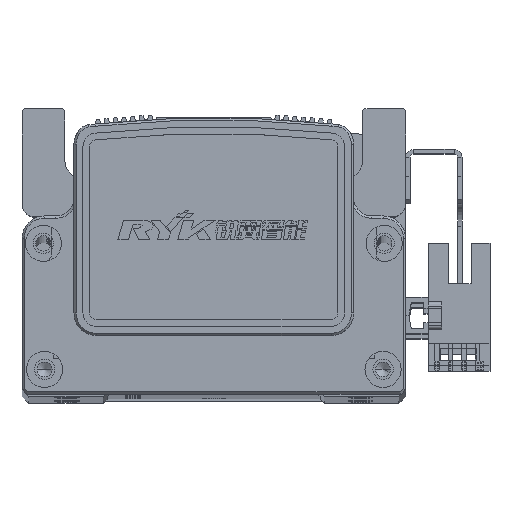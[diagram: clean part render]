
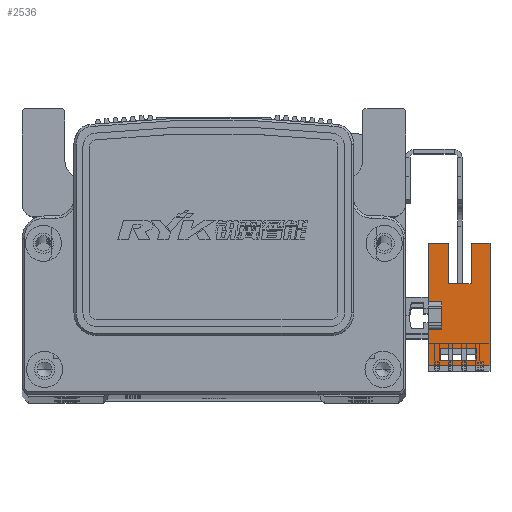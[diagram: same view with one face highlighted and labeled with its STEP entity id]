
A CAD part, top view. The second image highlights one B-rep face of the part: STEP entity #2536.
In plain terms, the highlighted planar face has unit normal (0, 0, 1) as drawn and (1, 0, 0) by its records, which use the part's own axes.
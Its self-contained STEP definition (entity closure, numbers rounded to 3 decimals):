
#1591 = VERTEX_POINT ( 'NONE', #40532 ) ;
#1601 = VERTEX_POINT ( 'NONE', #40647 ) ;
#1612 = VERTEX_POINT ( 'NONE', #40635 ) ;
#1615 = VERTEX_POINT ( 'NONE', #40606 ) ;
#1617 = VERTEX_POINT ( 'NONE', #40631 ) ;
#1626 = VERTEX_POINT ( 'NONE', #40671 ) ;
#1628 = VERTEX_POINT ( 'NONE', #40601 ) ;
#1649 = VERTEX_POINT ( 'NONE', #40608 ) ;
#2536 = ADVANCED_FACE ( 'NONE', ( #17563, #17527 ), #4373, .T. ) ;
#4373 = PLANE ( 'NONE',  #15589 ) ;
#4396 = CARTESIAN_POINT ( 'NONE',  ( 3.2, 16.1, -10.7 ) ) ;
#4399 = DIRECTION ( 'NONE',  ( 1., 0., 0. ) ) ;
#4404 = DIRECTION ( 'NONE',  ( 0., 1., 0. ) ) ;
#12273 = EDGE_LOOP ( 'NONE', ( #21564, #21559, #21554, #21567, #21569, #21543, #21582, #21572, #21539, #21566, #21581, #21553 ) ) ;
#12311 = EDGE_LOOP ( 'NONE', ( #21540, #21579, #21541, #20438 ) ) ;
#15589 = AXIS2_PLACEMENT_3D ( 'NONE', #4396, #4399, #4404 ) ;
#17527 = FACE_BOUND ( 'NONE', #12311, .T. ) ;
#17563 = FACE_OUTER_BOUND ( 'NONE', #12273, .T. ) ;
#20438 = ORIENTED_EDGE ( 'NONE', *, *, #41676, .F. ) ;
#21539 = ORIENTED_EDGE ( 'NONE', *, *, #41618, .F. ) ;
#21540 = ORIENTED_EDGE ( 'NONE', *, *, #41741, .F. ) ;
#21541 = ORIENTED_EDGE ( 'NONE', *, *, #41724, .F. ) ;
#21543 = ORIENTED_EDGE ( 'NONE', *, *, #41775, .F. ) ;
#21553 = ORIENTED_EDGE ( 'NONE', *, *, #41400, .T. ) ;
#21554 = ORIENTED_EDGE ( 'NONE', *, *, #41773, .T. ) ;
#21559 = ORIENTED_EDGE ( 'NONE', *, *, #41731, .T. ) ;
#21564 = ORIENTED_EDGE ( 'NONE', *, *, #41720, .T. ) ;
#21566 = ORIENTED_EDGE ( 'NONE', *, *, #41856, .F. ) ;
#21567 = ORIENTED_EDGE ( 'NONE', *, *, #41762, .T. ) ;
#21569 = ORIENTED_EDGE ( 'NONE', *, *, #41592, .F. ) ;
#21572 = ORIENTED_EDGE ( 'NONE', *, *, #41704, .F. ) ;
#21579 = ORIENTED_EDGE ( 'NONE', *, *, #41871, .F. ) ;
#21581 = ORIENTED_EDGE ( 'NONE', *, *, #41767, .T. ) ;
#21582 = ORIENTED_EDGE ( 'NONE', *, *, #41752, .F. ) ;
#27131 = CARTESIAN_POINT ( 'NONE',  ( 3.2, 16.1, -10.7 ) ) ;
#27242 = DIRECTION ( 'NONE',  ( 0., 0., 1. ) ) ;
#27767 = CARTESIAN_POINT ( 'NONE',  ( 3.2, 16.1, 3. ) ) ;
#27803 = DIRECTION ( 'NONE',  ( 0., 1., 0. ) ) ;
#27845 = CARTESIAN_POINT ( 'NONE',  ( 3.2, 16.1, 3. ) ) ;
#27862 = DIRECTION ( 'NONE',  ( 0., 1., 0. ) ) ;
#27906 = DIRECTION ( 'NONE',  ( 0., 0., -1. ) ) ;
#27940 = CARTESIAN_POINT ( 'NONE',  ( 3.2, -9.83, -10.7 ) ) ;
#28000 = DIRECTION ( 'NONE',  ( 0., 1., 0. ) ) ;
#28006 = DIRECTION ( 'NONE',  ( 0., 0., -1. ) ) ;
#28040 = CARTESIAN_POINT ( 'NONE',  ( 3.2, 25.1, -6.5 ) ) ;
#28041 = CARTESIAN_POINT ( 'NONE',  ( 3.2, 7.1, -6.5 ) ) ;
#28047 = DIRECTION ( 'NONE',  ( 0., -1., 0. ) ) ;
#28055 = CARTESIAN_POINT ( 'NONE',  ( 3.2, -3.1, 3. ) ) ;
#28057 = CARTESIAN_POINT ( 'NONE',  ( 3.2, 16.1, -7.7 ) ) ;
#28063 = CARTESIAN_POINT ( 'NONE',  ( 3.2, 16.1, -10.7 ) ) ;
#28068 = CARTESIAN_POINT ( 'NONE',  ( 3.2, 0., 0. ) ) ;
#28075 = DIRECTION ( 'NONE',  ( 0., 0., 1. ) ) ;
#28076 = DIRECTION ( 'NONE',  ( 0., 1., 0. ) ) ;
#28078 = CARTESIAN_POINT ( 'NONE',  ( 3.2, 25.1, -1.5 ) ) ;
#28079 = CARTESIAN_POINT ( 'NONE',  ( 3.2, 16.1, 0.3 ) ) ;
#28080 = DIRECTION ( 'NONE',  ( 0., 1., 0. ) ) ;
#28083 = DIRECTION ( 'NONE',  ( 0., 1., 0. ) ) ;
#28091 = CARTESIAN_POINT ( 'NONE',  ( 3.2, 16.1, -10.7 ) ) ;
#28095 = DIRECTION ( 'NONE',  ( 0., 0., 1. ) ) ;
#28101 = DIRECTION ( 'NONE',  ( 0., -1., 0. ) ) ;
#28121 = DIRECTION ( 'NONE',  ( 0., 0., 1. ) ) ;
#28140 = CARTESIAN_POINT ( 'NONE',  ( 3.2, 3.1, 3. ) ) ;
#28145 = CARTESIAN_POINT ( 'NONE',  ( 3.2, -11.1, 3. ) ) ;
#28182 = DIRECTION ( 'NONE',  ( 0., 0., 1. ) ) ;
#28196 = CARTESIAN_POINT ( 'NONE',  ( 3.2, -7.33, -10.7 ) ) ;
#28200 = DIRECTION ( 'NONE',  ( 0., 0., 1. ) ) ;
#37324 = VERTEX_POINT ( 'NONE', #47227 ) ;
#37444 = VERTEX_POINT ( 'NONE', #47279 ) ;
#37454 = VERTEX_POINT ( 'NONE', #47256 ) ;
#37523 = VERTEX_POINT ( 'NONE', #47336 ) ;
#37545 = VERTEX_POINT ( 'NONE', #47337 ) ;
#37554 = VERTEX_POINT ( 'NONE', #47327 ) ;
#37644 = VERTEX_POINT ( 'NONE', #47391 ) ;
#37683 = VERTEX_POINT ( 'NONE', #47408 ) ;
#40532 = CARTESIAN_POINT ( 'NONE',  ( 3.2, -9.83, 0.3 ) ) ;
#40601 = CARTESIAN_POINT ( 'NONE',  ( 3.2, 7.1, -6.5 ) ) ;
#40606 = CARTESIAN_POINT ( 'NONE',  ( 3.2, -11.1, -10.7 ) ) ;
#40608 = CARTESIAN_POINT ( 'NONE',  ( 3.2, 16.1, -1.5 ) ) ;
#40631 = CARTESIAN_POINT ( 'NONE',  ( 3.2, -9.83, -7.7 ) ) ;
#40635 = CARTESIAN_POINT ( 'NONE',  ( 3.2, -7.33, -7.7 ) ) ;
#40647 = CARTESIAN_POINT ( 'NONE',  ( 3.2, 7.1, -1.5 ) ) ;
#40671 = CARTESIAN_POINT ( 'NONE',  ( 3.2, -7.33, 0.3 ) ) ;
#41400 = EDGE_CURVE ( 'NONE', #37554, #37683, #42680, .T. ) ;
#41592 = EDGE_CURVE ( 'NONE', #37454, #37523, #42836, .T. ) ;
#41618 = EDGE_CURVE ( 'NONE', #37644, #37545, #42822, .T. ) ;
#41676 = EDGE_CURVE ( 'NONE', #1591, #1617, #42941, .T. ) ;
#41704 = EDGE_CURVE ( 'NONE', #37545, #37444, #42924, .T. ) ;
#41720 = EDGE_CURVE ( 'NONE', #37683, #1628, #42907, .T. ) ;
#41724 = EDGE_CURVE ( 'NONE', #1617, #1612, #42909, .T. ) ;
#41731 = EDGE_CURVE ( 'NONE', #1628, #1601, #42925, .T. ) ;
#41741 = EDGE_CURVE ( 'NONE', #1626, #1591, #42976, .T. ) ;
#41752 = EDGE_CURVE ( 'NONE', #37444, #37324, #42991, .T. ) ;
#41762 = EDGE_CURVE ( 'NONE', #1649, #37523, #42988, .T. ) ;
#41767 = EDGE_CURVE ( 'NONE', #1615, #37554, #42981, .T. ) ;
#41773 = EDGE_CURVE ( 'NONE', #1601, #1649, #42959, .T. ) ;
#41775 = EDGE_CURVE ( 'NONE', #37324, #37454, #42985, .T. ) ;
#41856 = EDGE_CURVE ( 'NONE', #1615, #37644, #43051, .T. ) ;
#41871 = EDGE_CURVE ( 'NONE', #1612, #1626, #43032, .T. ) ;
#42628 = VECTOR ( 'NONE', #27242, 1000. ) ;
#42680 = LINE ( 'NONE', #27131, #42628 ) ;
#42822 = LINE ( 'NONE', #27845, #42833 ) ;
#42833 = VECTOR ( 'NONE', #27862, 1000. ) ;
#42836 = LINE ( 'NONE', #27767, #42837 ) ;
#42837 = VECTOR ( 'NONE', #27803, 1000. ) ;
#42907 = LINE ( 'NONE', #28040, #42908 ) ;
#42908 = VECTOR ( 'NONE', #28047, 1000. ) ;
#42909 = LINE ( 'NONE', #28057, #42915 ) ;
#42915 = VECTOR ( 'NONE', #28000, 1000. ) ;
#42916 = VECTOR ( 'NONE', #28006, 1000. ) ;
#42924 = LINE ( 'NONE', #28055, #42916 ) ;
#42925 = LINE ( 'NONE', #28041, #42937 ) ;
#42937 = VECTOR ( 'NONE', #28095, 1000. ) ;
#42938 = VECTOR ( 'NONE', #27906, 1000. ) ;
#42941 = LINE ( 'NONE', #27940, #42938 ) ;
#42949 = VECTOR ( 'NONE', #28121, 1000. ) ;
#42952 = VECTOR ( 'NONE', #28076, 1000. ) ;
#42953 = VECTOR ( 'NONE', #28080, 1000. ) ;
#42959 = LINE ( 'NONE', #28078, #43002 ) ;
#42976 = LINE ( 'NONE', #28079, #42979 ) ;
#42979 = VECTOR ( 'NONE', #28101, 1000. ) ;
#42981 = LINE ( 'NONE', #28091, #42952 ) ;
#42982 = VECTOR ( 'NONE', #28075, 1000. ) ;
#42985 = LINE ( 'NONE', #28140, #42949 ) ;
#42988 = LINE ( 'NONE', #28063, #42982 ) ;
#42991 = LINE ( 'NONE', #28068, #42953 ) ;
#43002 = VECTOR ( 'NONE', #28083, 1000. ) ;
#43032 = LINE ( 'NONE', #28196, #43045 ) ;
#43045 = VECTOR ( 'NONE', #28200, 1000. ) ;
#43051 = LINE ( 'NONE', #28145, #43059 ) ;
#43059 = VECTOR ( 'NONE', #28182, 1000. ) ;
#47227 = CARTESIAN_POINT ( 'NONE',  ( 3.2, 3.1, 0. ) ) ;
#47256 = CARTESIAN_POINT ( 'NONE',  ( 3.2, 3.1, 3. ) ) ;
#47279 = CARTESIAN_POINT ( 'NONE',  ( 3.2, -3.1, 0. ) ) ;
#47327 = CARTESIAN_POINT ( 'NONE',  ( 3.2, 16.1, -10.7 ) ) ;
#47336 = CARTESIAN_POINT ( 'NONE',  ( 3.2, 16.1, 3. ) ) ;
#47337 = CARTESIAN_POINT ( 'NONE',  ( 3.2, -3.1, 3. ) ) ;
#47391 = CARTESIAN_POINT ( 'NONE',  ( 3.2, -11.1, 3. ) ) ;
#47408 = CARTESIAN_POINT ( 'NONE',  ( 3.2, 16.1, -6.5 ) ) ;
